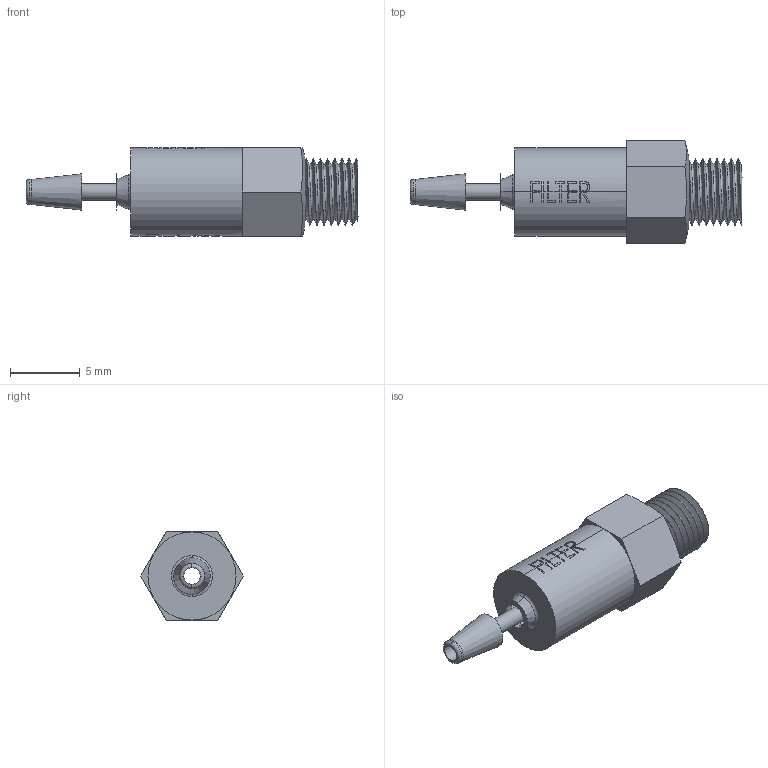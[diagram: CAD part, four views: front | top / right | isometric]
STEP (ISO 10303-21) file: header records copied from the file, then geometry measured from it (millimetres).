
FILE_DESCRIPTION(/* description */ ('SolidWorks IGES file using NURBS representation for surfaces '),/* implementation_level */ '2;1');
FILE_NAME(/* name */ 'K:\Normteile INVENTOR\Air-Logic\Filters\F-960-5-B80.IGS.ipt.stp',/* time_stamp */ '2020-05-27T10:40:02+02:00',/* author */ ('amarsh'),/* organization */ (''),/* preprocessor_version */ 'ST-DEVELOPER v18',/* originating_system */ 'Autodesk Inventor 2020',/* authorisation */ '');
FILE_SCHEMA (('AUTOMOTIVE_DESIGN { 1 0 10303 214 3 1 1 }'));
Length unit declared in the file: millimetre
Products named in the file (1): F-960-5-B80.IGS
Bounding box: 23.75 x 7.33 x 6.35 mm (x, y, z)
Volume: 436.3 mm3; surface area: 598.1 mm2
Topology: 1 solids, 1 shells, 165 faces, 473 edges, 317 vertices
Faces by surface type: plane 79, bspline 41, cylinder 36, cone 5, torus 4
Full cylindrical faces by diameter (mm): 1.17 x1, 1.8 x1, 2.36 x1, 4.75 x7
Entity records: 10122 total; most frequent: CARTESIAN_POINT 5957, ORIENTED_EDGE 946, DIRECTION 756, EDGE_CURVE 473, VERTEX_POINT 317, AXIS2_PLACEMENT_3D 266, LINE 224, VECTOR 224
